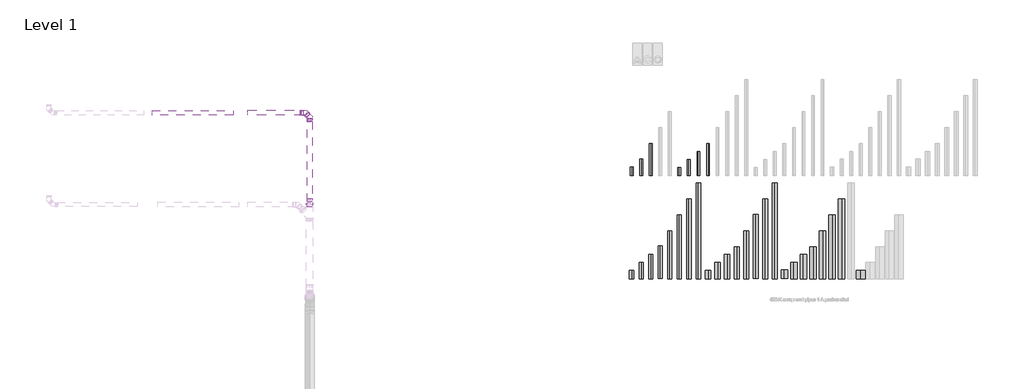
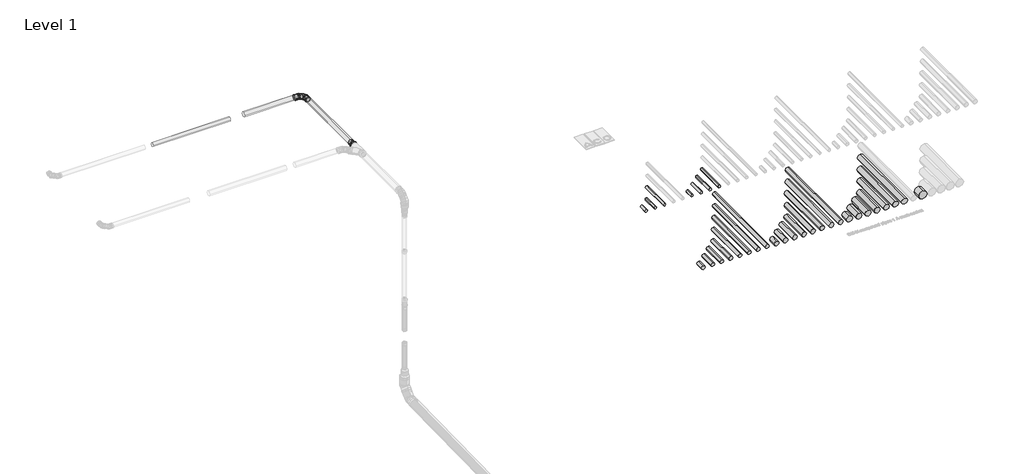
# One storey, part 2 of 4: 34 pipe segments, 12 pipe fittings.
"""IFC4 building model written with IfcOpenShell, lengths in millimetres."""

from ifc_helpers import new_model, si_unit, point, frame, frame_2d, origin, place, context, project, spatial, circle_curve, trimmed, segment, composite_curve, outline, extrude, transform, mapped, element, save
from components import double_bend_d3bed9e9, std_nested_fe88de9d, std_nested_46ab66b3, std_nested_90d89c33, std_nested_b22cb0b6, std_nested_0b754541, std_nested_8d21ddc5, std_nested_95e7eb0f

model = new_model("IFC4")

# Units and contexts
model_context = context("Model", 3, world=origin())
ifc_project = project(units=[si_unit("LENGTHUNIT", "METRE", prefix="MILLI")], contexts=[model_context])

# Site, building, storey
site = spatial("IfcSite", under=ifc_project)
building = spatial("IfcBuilding", under=site)
storey = spatial("IfcBuildingStorey", under=building, Name="Level 1", Elevation=0.0)

# Pipe fittings
placement = place(None, origin())
double_bend_shape = double_bend_d3bed9e9(model_context)
element("IfcPipeFitting", 1, ObjectType="PIF_ST_UN_GM-X compound pipe multi-bend_ACO : double bend", at=placement, inside=storey, context=model_context, shape_type="MappedRepresentation", body=[
    mapped(double_bend_shape, transform((-9614.684142, 5223.6615366, 6367.4522786), x_axis=(0.0, 1.0, 0.0), y_axis=(-1.0, 0.0, 0.0), z_axis=(0.0, 0.0, 1.0))),
])
std_nested_shape = std_nested_fe88de9d(model_context)
element("IfcPipeFitting", 2, ObjectType="ZZZ_do not use_PIF_ST_WPB_GM-X compound pipe bend_ACO : std (nested)", at=placement, inside=storey, context=model_context, shape_type="MappedRepresentation", body=[
    mapped(std_nested_shape, transform((-9752.5699643, 5223.6615366, 6367.4522786), x_axis=(-0.7071067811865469, 0.7071067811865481, 0.0), y_axis=(-0.7071067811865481, -0.7071067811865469, 0.0), z_axis=(0.0, 0.0, 1.0))),
])
std_nested_2_shape = std_nested_46ab66b3(model_context)
element("IfcPipeFitting", 3, ObjectType="ZZZ_do not use_PIF_GEN_WPB_GM-X (compound) pipe seal_ACO : std (nested)", at=placement, inside=storey, context=model_context, shape_type="MappedRepresentation", body=[
    mapped(std_nested_2_shape, transform((-9887.5699643, 5223.6615366, 6367.4522786), x_axis=(0.0, 1.0000000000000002, 0.0), y_axis=(0.0, 0.0, -1.0000000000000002), z_axis=(-1.0000000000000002, 0.0, 0.0))),
])
element("IfcPipeFitting", 4, ObjectType="ZZZ_do not use_PIF_GEN_WPB_GM-X (compound) pipe seal_ACO : std (nested)", at=placement, inside=storey, context=model_context, shape_type="MappedRepresentation", body=[
    mapped(std_nested_2_shape, transform((-9710.1435574, 5181.2351298, 6367.4522786), x_axis=(0.7071067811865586, 0.7071067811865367, 0.0), y_axis=(0.0, 0.0, -1.0000000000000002), z_axis=(-0.7071067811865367, 0.7071067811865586, 0.0))),
])
element("IfcPipeFitting", 5, ObjectType="ZZZ_do not use_PIF_GEN_WPB_GM-X (compound) pipe seal_ACO : std (nested)", at=placement, inside=storey, context=model_context, shape_type="MappedRepresentation", body=[
    mapped(std_nested_2_shape, transform((-9614.684142, 2502.2702632, 6367.4522786), x_axis=(1.0, 0.0, 0.0), y_axis=(0.0, 0.0, -1.0), z_axis=(0.0, 1.0, 0.0))),
])
std_nested_3_shape = std_nested_90d89c33(model_context)
element("IfcPipeFitting", 6, ObjectType="ZZZ_do not use_PIF_ST_WPB_GM-X compound pipe clamp_ACO : std (nested)", at=placement, inside=storey, context=model_context, shape_type="MappedRepresentation", body=[
    mapped(std_nested_3_shape, transform((-9887.5699643, 5223.6615366, 6367.4522786), x_axis=(0.0, 1.0000000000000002, 0.0), y_axis=(0.0, 0.0, -1.0000000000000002), z_axis=(-1.0000000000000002, 0.0, 0.0))),
])
element("IfcPipeFitting", 7, ObjectType="ZZZ_do not use_PIF_ST_WPB_GM-X compound pipe clamp_ACO : std (nested)", at=placement, inside=storey, context=model_context, shape_type="MappedRepresentation", body=[
    mapped(std_nested_3_shape, transform((-9710.1435574, 5181.2351298, 6367.4522786), x_axis=(0.7071067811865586, 0.7071067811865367, 0.0), y_axis=(0.0, 0.0, -1.0000000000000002), z_axis=(-0.7071067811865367, 0.7071067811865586, 0.0))),
])
element("IfcPipeFitting", 8, ObjectType="ZZZ_do not use_PIF_ST_WPB_GM-X compound pipe clamp_ACO : std (nested)", at=placement, inside=storey, context=model_context, shape_type="MappedRepresentation", body=[
    mapped(std_nested_3_shape, transform((-9614.684142, 2502.2702632, 6367.4522786), x_axis=(1.0, 0.0, 0.0), y_axis=(0.0, 0.0, -1.0), z_axis=(0.0, 1.0, 0.0))),
])
std_nested_4_shape = std_nested_b22cb0b6(model_context)
element("IfcPipeFitting", 9, ObjectType="ZZZ_do not use_PIF_GEN_WPB_GM-X (compound) pipe seal_ACO : std (nested)", at=placement, inside=storey, context=model_context, shape_type="MappedRepresentation", body=[
    mapped(std_nested_4_shape, transform((-9614.684142, 4950.7757143, 6367.4522786), x_axis=(-1.0, 0.0, 0.0), y_axis=(0.0, 0.0, -1.0), z_axis=(0.0, -1.0, 0.0))),
])
std_nested_5_shape = std_nested_0b754541(model_context)
element("IfcPipeFitting", 10, ObjectType="ZZZ_do not use_PIF_ST_WPB_GM-X compound pipe bend_ACO : std (nested)", at=placement, inside=storey, context=model_context, shape_type="MappedRepresentation", body=[
    mapped(std_nested_5_shape, transform((-9614.684142, 5085.7757143, 6367.4522786), x_axis=(0.0, 1.0, 0.0), y_axis=(-1.0, 0.0, 0.0), z_axis=(0.0, 0.0, 1.0))),
])
std_nested_6_shape = std_nested_8d21ddc5(model_context)
element("IfcPipeFitting", 11, ObjectType="ZZZ_do not use_PIF_ST_WPB_GM-X compound pipe clamp_ACO : std (nested)", at=placement, inside=storey, context=model_context, shape_type="MappedRepresentation", body=[
    mapped(std_nested_6_shape, transform((-9614.684142, 4950.7757143, 6367.4522786), x_axis=(-1.0, 0.0, 0.0), y_axis=(0.0, 0.0, -1.0), z_axis=(0.0, -1.0, 0.0))),
])
std_nested_7_shape = std_nested_95e7eb0f(model_context)
element("IfcPipeFitting", 12, ObjectType="ZZZ_do not use_PIF_ST_WPB_GM-X compound pipe reducer_ACO : std (nested)", at=placement, inside=storey, context=model_context, shape_type="MappedRepresentation", body=[
    mapped(std_nested_7_shape, transform((-9614.684142, 2262.2702632, 6367.4522786), x_axis=(0.0, -1.0, 0.0), y_axis=(1.0, 0.0, 0.0), z_axis=(0.0, 0.0, 1.0))),
])

# Pipe segments
element("IfcPipeSegment", 13, ObjectType="GM-X compound pipe", at=placement, inside=storey, context=model_context, shape_type="SweptSolid", body=[
    extrude(outline(composite_curve([segment(trimmed(circle_curve(frame_2d((0.0, 500.0)), 44.5), [point((0.0, 544.5))], [point((44.5, 500.0))], False, "CARTESIAN"), True, "CONTINUOUS"), segment(trimmed(circle_curve(frame_2d((0.0, 500.0)), 44.5), [point((44.5, 500.0))], [point((0.0, 455.5))], False, "CARTESIAN"), True, "CONTINUOUS"), segment(trimmed(circle_curve(frame_2d((0.0, 500.0)), 44.5), [point((0.0, 455.5))], [point((-44.5, 500.0))], False, "CARTESIAN"), True, "CONTINUOUS"), segment(trimmed(circle_curve(frame_2d((0.0, 500.0)), 44.5), [point((-44.5, 500.0))], [point((0.0, 544.5))], False, "CARTESIAN"), True, "CONTINUOUS")], self_intersect=False)), frame((0.0, 3250.0, 0.0), z_axis=(0.0, 1.0, 0.0), x_axis=(0.0, 0.0, 1.0)), (0.0, 0.0, 1.0), 260.0),
])
element("IfcPipeSegment", 14, ObjectType="GM-X compound pipe", at=placement, inside=storey, context=model_context, shape_type="SweptSolid", body=[
    extrude(outline(composite_curve([segment(trimmed(circle_curve(frame_2d((0.0, 800.0)), 44.5), [point((0.0, 844.5))], [point((44.5, 800.0))], False, "CARTESIAN"), True, "CONTINUOUS"), segment(trimmed(circle_curve(frame_2d((0.0, 800.0)), 44.5), [point((44.5, 800.0))], [point((0.0, 755.5))], False, "CARTESIAN"), True, "CONTINUOUS"), segment(trimmed(circle_curve(frame_2d((0.0, 800.0)), 44.5), [point((0.0, 755.5))], [point((-44.5, 800.0))], False, "CARTESIAN"), True, "CONTINUOUS"), segment(trimmed(circle_curve(frame_2d((0.0, 800.0)), 44.5), [point((-44.5, 800.0))], [point((0.0, 844.5))], False, "CARTESIAN"), True, "CONTINUOUS")], self_intersect=False)), frame((0.0, 3250.0, 0.0), z_axis=(0.0, 1.0, 0.0), x_axis=(0.0, 0.0, 1.0)), (0.0, 0.0, 1.0), 510.0),
])
element("IfcPipeSegment", 15, ObjectType="GM-X compound pipe", at=placement, inside=storey, context=model_context, shape_type="SweptSolid", body=[
    extrude(outline(composite_curve([segment(trimmed(circle_curve(frame_2d((0.0, 1100.0)), 44.5), [point((0.0, 1144.5))], [point((44.5, 1100.0))], False, "CARTESIAN"), True, "CONTINUOUS"), segment(trimmed(circle_curve(frame_2d((0.0, 1100.0)), 44.5), [point((44.5, 1100.0))], [point((0.0, 1055.5))], False, "CARTESIAN"), True, "CONTINUOUS"), segment(trimmed(circle_curve(frame_2d((0.0, 1100.0)), 44.5), [point((0.0, 1055.5))], [point((-44.5, 1100.0))], False, "CARTESIAN"), True, "CONTINUOUS"), segment(trimmed(circle_curve(frame_2d((0.0, 1100.0)), 44.5), [point((-44.5, 1100.0))], [point((0.0, 1144.5))], False, "CARTESIAN"), True, "CONTINUOUS")], self_intersect=False)), frame((0.0, 3250.0, 0.0), z_axis=(0.0, 1.0, 0.0), x_axis=(0.0, 0.0, 1.0)), (0.0, 0.0, 1.0), 1010.0),
])
element("IfcPipeSegment", 16, ObjectType="GM-X compound pipe", at=placement, inside=storey, context=model_context, shape_type="SweptSolid", body=[
    extrude(outline(composite_curve([segment(trimmed(circle_curve(frame_2d((0.0, 2000.0)), 44.5), [point((0.0, 2044.5))], [point((44.5, 2000.0))], False, "CARTESIAN"), True, "CONTINUOUS"), segment(trimmed(circle_curve(frame_2d((0.0, 2000.0)), 44.5), [point((44.5, 2000.0))], [point((0.0, 1955.5))], False, "CARTESIAN"), True, "CONTINUOUS"), segment(trimmed(circle_curve(frame_2d((0.0, 2000.0)), 44.5), [point((0.0, 1955.5))], [point((-44.5, 2000.0))], False, "CARTESIAN"), True, "CONTINUOUS"), segment(trimmed(circle_curve(frame_2d((0.0, 2000.0)), 44.5), [point((-44.5, 2000.0))], [point((0.0, 2044.5))], False, "CARTESIAN"), True, "CONTINUOUS")], self_intersect=False)), frame((0.0, 3250.0, 0.0), z_axis=(0.0, 1.0, 0.0), x_axis=(0.0, 0.0, 1.0)), (0.0, 0.0, 1.0), 258.0),
])
element("IfcPipeSegment", 17, ObjectType="GM-X compound pipe", at=placement, inside=storey, context=model_context, shape_type="SweptSolid", body=[
    extrude(outline(composite_curve([segment(trimmed(circle_curve(frame_2d((0.0, 2300.0)), 44.5), [point((0.0, 2344.5))], [point((44.5, 2300.0))], False, "CARTESIAN"), True, "CONTINUOUS"), segment(trimmed(circle_curve(frame_2d((0.0, 2300.0)), 44.5), [point((44.5, 2300.0))], [point((0.0, 2255.5))], False, "CARTESIAN"), True, "CONTINUOUS"), segment(trimmed(circle_curve(frame_2d((0.0, 2300.0)), 44.5), [point((0.0, 2255.5))], [point((-44.5, 2300.0))], False, "CARTESIAN"), True, "CONTINUOUS"), segment(trimmed(circle_curve(frame_2d((0.0, 2300.0)), 44.5), [point((-44.5, 2300.0))], [point((0.0, 2344.5))], False, "CARTESIAN"), True, "CONTINUOUS")], self_intersect=False)), frame((0.0, 3250.0, 0.0), z_axis=(0.0, 1.0, 0.0), x_axis=(0.0, 0.0, 1.0)), (0.0, 0.0, 1.0), 508.0),
])
element("IfcPipeSegment", 18, ObjectType="GM-X compound pipe", at=placement, inside=storey, context=model_context, shape_type="SweptSolid", body=[
    extrude(outline(composite_curve([segment(trimmed(circle_curve(frame_2d((0.0, 2600.0)), 44.5), [point((0.0, 2644.5))], [point((44.5, 2600.0))], False, "CARTESIAN"), True, "CONTINUOUS"), segment(trimmed(circle_curve(frame_2d((0.0, 2600.0)), 44.5), [point((44.5, 2600.0))], [point((0.0, 2555.5))], False, "CARTESIAN"), True, "CONTINUOUS"), segment(trimmed(circle_curve(frame_2d((0.0, 2600.0)), 44.5), [point((0.0, 2555.5))], [point((-44.5, 2600.0))], False, "CARTESIAN"), True, "CONTINUOUS"), segment(trimmed(circle_curve(frame_2d((0.0, 2600.0)), 44.5), [point((-44.5, 2600.0))], [point((0.0, 2644.5))], False, "CARTESIAN"), True, "CONTINUOUS")], self_intersect=False)), frame((0.0, 3250.0, 0.0), z_axis=(0.0, 1.0, 0.0), x_axis=(0.0, 0.0, 1.0)), (0.0, 0.0, 1.0), 758.0),
])
element("IfcPipeSegment", 19, ObjectType="GM-X compound pipe", at=placement, inside=storey, context=model_context, shape_type="SweptSolid", body=[
    extrude(outline(composite_curve([segment(trimmed(circle_curve(frame_2d((0.0, 2900.0)), 44.5), [point((0.0, 2944.5))], [point((44.5, 2900.0))], False, "CARTESIAN"), True, "CONTINUOUS"), segment(trimmed(circle_curve(frame_2d((0.0, 2900.0)), 44.5), [point((44.5, 2900.0))], [point((0.0, 2855.5))], False, "CARTESIAN"), True, "CONTINUOUS"), segment(trimmed(circle_curve(frame_2d((0.0, 2900.0)), 44.5), [point((0.0, 2855.5))], [point((-44.5, 2900.0))], False, "CARTESIAN"), True, "CONTINUOUS"), segment(trimmed(circle_curve(frame_2d((0.0, 2900.0)), 44.5), [point((-44.5, 2900.0))], [point((0.0, 2944.5))], False, "CARTESIAN"), True, "CONTINUOUS")], self_intersect=False)), frame((0.0, 3250.0, 0.0), z_axis=(0.0, 1.0, 0.0), x_axis=(0.0, 0.0, 1.0)), (0.0, 0.0, 1.0), 1008.0),
])
element("IfcPipeSegment", 20, ObjectType="GM-X compound pipe", at=placement, inside=storey, context=model_context, shape_type="SweptSolid", body=[
    extrude(outline(composite_curve([segment(trimmed(circle_curve(frame_2d((0.0, 500.0)), 67.0), [point((0.0, 567.0))], [point((67.0, 500.0))], False, "CARTESIAN"), True, "CONTINUOUS"), segment(trimmed(circle_curve(frame_2d((0.0, 500.0)), 67.0), [point((67.0, 500.0))], [point((0.0, 433.0))], False, "CARTESIAN"), True, "CONTINUOUS"), segment(trimmed(circle_curve(frame_2d((0.0, 500.0)), 67.0), [point((0.0, 433.0))], [point((-67.0, 500.0))], False, "CARTESIAN"), True, "CONTINUOUS"), segment(trimmed(circle_curve(frame_2d((0.0, 500.0)), 67.0), [point((-67.0, 500.0))], [point((0.0, 567.0))], False, "CARTESIAN"), True, "CONTINUOUS")], self_intersect=False)), frame((0.0, 0.0, 0.0), z_axis=(0.0, 1.0, 0.0), x_axis=(0.0, 0.0, 1.0)), (0.0, 0.0, 1.0), 260.0),
])
element("IfcPipeSegment", 21, ObjectType="GM-X compound pipe", at=placement, inside=storey, context=model_context, shape_type="SweptSolid", body=[
    extrude(outline(composite_curve([segment(trimmed(circle_curve(frame_2d((0.0, 800.0)), 67.0), [point((0.0, 867.0))], [point((67.0, 800.0))], False, "CARTESIAN"), True, "CONTINUOUS"), segment(trimmed(circle_curve(frame_2d((0.0, 800.0)), 67.0), [point((67.0, 800.0))], [point((0.0, 733.0))], False, "CARTESIAN"), True, "CONTINUOUS"), segment(trimmed(circle_curve(frame_2d((0.0, 800.0)), 67.0), [point((0.0, 733.0))], [point((-67.0, 800.0))], False, "CARTESIAN"), True, "CONTINUOUS"), segment(trimmed(circle_curve(frame_2d((0.0, 800.0)), 67.0), [point((-67.0, 800.0))], [point((0.0, 867.0))], False, "CARTESIAN"), True, "CONTINUOUS")], self_intersect=False)), frame((0.0, 0.0, 0.0), z_axis=(0.0, 1.0, 0.0), x_axis=(0.0, 0.0, 1.0)), (0.0, 0.0, 1.0), 510.0),
])
element("IfcPipeSegment", 22, ObjectType="GM-X compound pipe", at=placement, inside=storey, context=model_context, shape_type="SweptSolid", body=[
    extrude(outline(composite_curve([segment(trimmed(circle_curve(frame_2d((0.0, 1100.0)), 67.0), [point((0.0, 1167.0))], [point((67.0, 1100.0))], False, "CARTESIAN"), True, "CONTINUOUS"), segment(trimmed(circle_curve(frame_2d((0.0, 1100.0)), 67.0), [point((67.0, 1100.0))], [point((0.0, 1033.0))], False, "CARTESIAN"), True, "CONTINUOUS"), segment(trimmed(circle_curve(frame_2d((0.0, 1100.0)), 67.0), [point((0.0, 1033.0))], [point((-67.0, 1100.0))], False, "CARTESIAN"), True, "CONTINUOUS"), segment(trimmed(circle_curve(frame_2d((0.0, 1100.0)), 67.0), [point((-67.0, 1100.0))], [point((0.0, 1167.0))], False, "CARTESIAN"), True, "CONTINUOUS")], self_intersect=False)), frame((0.0, 0.0, 0.0), z_axis=(0.0, 1.0, 0.0), x_axis=(0.0, 0.0, 1.0)), (0.0, 0.0, 1.0), 760.0),
])
element("IfcPipeSegment", 23, ObjectType="GM-X compound pipe", at=placement, inside=storey, context=model_context, shape_type="SweptSolid", body=[
    extrude(outline(composite_curve([segment(trimmed(circle_curve(frame_2d((0.0, 1400.0)), 67.0), [point((0.0, 1467.0))], [point((67.0, 1400.0))], False, "CARTESIAN"), True, "CONTINUOUS"), segment(trimmed(circle_curve(frame_2d((0.0, 1400.0)), 67.0), [point((67.0, 1400.0))], [point((0.0, 1333.0))], False, "CARTESIAN"), True, "CONTINUOUS"), segment(trimmed(circle_curve(frame_2d((0.0, 1400.0)), 67.0), [point((0.0, 1333.0))], [point((-67.0, 1400.0))], False, "CARTESIAN"), True, "CONTINUOUS"), segment(trimmed(circle_curve(frame_2d((0.0, 1400.0)), 67.0), [point((-67.0, 1400.0))], [point((0.0, 1467.0))], False, "CARTESIAN"), True, "CONTINUOUS")], self_intersect=False)), frame((0.0, 16.3427665, 0.0), z_axis=(0.0, 1.0, 0.0), x_axis=(0.0, 0.0, 1.0)), (0.0, 0.0, 1.0), 1010.0),
])
element("IfcPipeSegment", 24, ObjectType="GM-X compound pipe", at=placement, inside=storey, context=model_context, shape_type="SweptSolid", body=[
    extrude(outline(composite_curve([segment(trimmed(circle_curve(frame_2d((0.0, 1700.0)), 67.0), [point((0.0, 1767.0))], [point((67.0, 1700.0))], False, "CARTESIAN"), True, "CONTINUOUS"), segment(trimmed(circle_curve(frame_2d((0.0, 1700.0)), 67.0), [point((67.0, 1700.0))], [point((0.0, 1633.0))], False, "CARTESIAN"), True, "CONTINUOUS"), segment(trimmed(circle_curve(frame_2d((0.0, 1700.0)), 67.0), [point((0.0, 1633.0))], [point((-67.0, 1700.0))], False, "CARTESIAN"), True, "CONTINUOUS"), segment(trimmed(circle_curve(frame_2d((0.0, 1700.0)), 67.0), [point((-67.0, 1700.0))], [point((0.0, 1767.0))], False, "CARTESIAN"), True, "CONTINUOUS")], self_intersect=False)), frame((0.0, 0.0, 0.0), z_axis=(0.0, 1.0, 0.0), x_axis=(0.0, 0.0, 1.0)), (0.0, 0.0, 1.0), 1510.0),
])
element("IfcPipeSegment", 25, ObjectType="GM-X compound pipe", at=placement, inside=storey, context=model_context, shape_type="SweptSolid", body=[
    extrude(outline(composite_curve([segment(trimmed(circle_curve(frame_2d((0.0, 2000.0)), 67.0), [point((0.0, 2067.0))], [point((67.0, 2000.0))], False, "CARTESIAN"), True, "CONTINUOUS"), segment(trimmed(circle_curve(frame_2d((0.0, 2000.0)), 67.0), [point((67.0, 2000.0))], [point((0.0, 1933.0))], False, "CARTESIAN"), True, "CONTINUOUS"), segment(trimmed(circle_curve(frame_2d((0.0, 2000.0)), 67.0), [point((0.0, 1933.0))], [point((-67.0, 2000.0))], False, "CARTESIAN"), True, "CONTINUOUS"), segment(trimmed(circle_curve(frame_2d((0.0, 2000.0)), 67.0), [point((-67.0, 2000.0))], [point((0.0, 2067.0))], False, "CARTESIAN"), True, "CONTINUOUS")], self_intersect=False)), frame((0.0, 0.0, 0.0), z_axis=(0.0, 1.0, 0.0), x_axis=(0.0, 0.0, 1.0)), (0.0, 0.0, 1.0), 2010.0),
])
element("IfcPipeSegment", 26, ObjectType="GM-X compound pipe", at=placement, inside=storey, context=model_context, shape_type="SweptSolid", body=[
    extrude(outline(composite_curve([segment(trimmed(circle_curve(frame_2d((0.0, 2300.0)), 67.0), [point((0.0, 2367.0))], [point((67.0, 2300.0))], False, "CARTESIAN"), True, "CONTINUOUS"), segment(trimmed(circle_curve(frame_2d((0.0, 2300.0)), 67.0), [point((67.0, 2300.0))], [point((0.0, 2233.0))], False, "CARTESIAN"), True, "CONTINUOUS"), segment(trimmed(circle_curve(frame_2d((0.0, 2300.0)), 67.0), [point((0.0, 2233.0))], [point((-67.0, 2300.0))], False, "CARTESIAN"), True, "CONTINUOUS"), segment(trimmed(circle_curve(frame_2d((0.0, 2300.0)), 67.0), [point((-67.0, 2300.0))], [point((0.0, 2367.0))], False, "CARTESIAN"), True, "CONTINUOUS")], self_intersect=False)), frame((0.0, 0.0, 0.0), z_axis=(0.0, 1.0, 0.0), x_axis=(0.0, 0.0, 1.0)), (0.0, 0.0, 1.0), 2510.0),
])
element("IfcPipeSegment", 27, ObjectType="GM-X compound pipe", at=placement, inside=storey, context=model_context, shape_type="SweptSolid", body=[
    extrude(outline(composite_curve([segment(trimmed(circle_curve(frame_2d((0.0, 2600.0)), 67.0), [point((0.0, 2667.0))], [point((67.0, 2600.0))], False, "CARTESIAN"), True, "CONTINUOUS"), segment(trimmed(circle_curve(frame_2d((0.0, 2600.0)), 67.0), [point((67.0, 2600.0))], [point((0.0, 2533.0))], False, "CARTESIAN"), True, "CONTINUOUS"), segment(trimmed(circle_curve(frame_2d((0.0, 2600.0)), 67.0), [point((0.0, 2533.0))], [point((-67.0, 2600.0))], False, "CARTESIAN"), True, "CONTINUOUS"), segment(trimmed(circle_curve(frame_2d((0.0, 2600.0)), 67.0), [point((-67.0, 2600.0))], [point((0.0, 2667.0))], False, "CARTESIAN"), True, "CONTINUOUS")], self_intersect=False)), frame((0.0, 0.0, 0.0), z_axis=(0.0, 1.0, 0.0), x_axis=(0.0, 0.0, 1.0)), (0.0, 0.0, 1.0), 3010.0),
])
element("IfcPipeSegment", 28, ObjectType="GM-X compound pipe", at=placement, inside=storey, context=model_context, shape_type="SweptSolid", body=[
    extrude(outline(composite_curve([segment(trimmed(circle_curve(frame_2d((0.0, 2900.0)), 82.0), [point((0.0, 2982.0))], [point((82.0, 2900.0))], False, "CARTESIAN"), True, "CONTINUOUS"), segment(trimmed(circle_curve(frame_2d((0.0, 2900.0)), 82.0), [point((82.0, 2900.0))], [point((0.0, 2818.0))], False, "CARTESIAN"), True, "CONTINUOUS"), segment(trimmed(circle_curve(frame_2d((0.0, 2900.0)), 82.0), [point((0.0, 2818.0))], [point((-82.0, 2900.0))], False, "CARTESIAN"), True, "CONTINUOUS"), segment(trimmed(circle_curve(frame_2d((0.0, 2900.0)), 82.0), [point((-82.0, 2900.0))], [point((0.0, 2982.0))], False, "CARTESIAN"), True, "CONTINUOUS")], self_intersect=False)), frame((0.0, 0.0, 0.0), z_axis=(0.0, 1.0, 0.0), x_axis=(0.0, 0.0, 1.0)), (0.0, 0.0, 1.0), 260.0),
])
element("IfcPipeSegment", 29, ObjectType="GM-X compound pipe", at=placement, inside=storey, context=model_context, shape_type="SweptSolid", body=[
    extrude(outline(composite_curve([segment(trimmed(circle_curve(frame_2d((0.0, 3200.0)), 82.0), [point((0.0, 3282.0))], [point((82.0, 3200.0))], False, "CARTESIAN"), True, "CONTINUOUS"), segment(trimmed(circle_curve(frame_2d((0.0, 3200.0)), 82.0), [point((82.0, 3200.0))], [point((0.0, 3118.0))], False, "CARTESIAN"), True, "CONTINUOUS"), segment(trimmed(circle_curve(frame_2d((0.0, 3200.0)), 82.0), [point((0.0, 3118.0))], [point((-82.0, 3200.0))], False, "CARTESIAN"), True, "CONTINUOUS"), segment(trimmed(circle_curve(frame_2d((0.0, 3200.0)), 82.0), [point((-82.0, 3200.0))], [point((0.0, 3282.0))], False, "CARTESIAN"), True, "CONTINUOUS")], self_intersect=False)), frame((0.0, 0.0, 0.0), z_axis=(0.0, 1.0, 0.0), x_axis=(0.0, 0.0, 1.0)), (0.0, 0.0, 1.0), 510.0),
])
element("IfcPipeSegment", 30, ObjectType="GM-X compound pipe", at=placement, inside=storey, context=model_context, shape_type="SweptSolid", body=[
    extrude(outline(composite_curve([segment(trimmed(circle_curve(frame_2d((0.0, 3500.0)), 82.0), [point((0.0, 3582.0))], [point((82.0, 3500.0))], False, "CARTESIAN"), True, "CONTINUOUS"), segment(trimmed(circle_curve(frame_2d((0.0, 3500.0)), 82.0), [point((82.0, 3500.0))], [point((0.0, 3418.0))], False, "CARTESIAN"), True, "CONTINUOUS"), segment(trimmed(circle_curve(frame_2d((0.0, 3500.0)), 82.0), [point((0.0, 3418.0))], [point((-82.0, 3500.0))], False, "CARTESIAN"), True, "CONTINUOUS"), segment(trimmed(circle_curve(frame_2d((0.0, 3500.0)), 82.0), [point((-82.0, 3500.0))], [point((0.0, 3582.0))], False, "CARTESIAN"), True, "CONTINUOUS")], self_intersect=False)), frame((0.0, 0.0, 0.0), z_axis=(0.0, 1.0, 0.0), x_axis=(0.0, 0.0, 1.0)), (0.0, 0.0, 1.0), 760.0),
])
element("IfcPipeSegment", 31, ObjectType="GM-X compound pipe", at=placement, inside=storey, context=model_context, shape_type="SweptSolid", body=[
    extrude(outline(composite_curve([segment(trimmed(circle_curve(frame_2d((0.0, 3800.0)), 82.0), [point((0.0, 3882.0))], [point((82.0, 3800.0))], False, "CARTESIAN"), True, "CONTINUOUS"), segment(trimmed(circle_curve(frame_2d((0.0, 3800.0)), 82.0), [point((82.0, 3800.0))], [point((0.0, 3718.0))], False, "CARTESIAN"), True, "CONTINUOUS"), segment(trimmed(circle_curve(frame_2d((0.0, 3800.0)), 82.0), [point((0.0, 3718.0))], [point((-82.0, 3800.0))], False, "CARTESIAN"), True, "CONTINUOUS"), segment(trimmed(circle_curve(frame_2d((0.0, 3800.0)), 82.0), [point((-82.0, 3800.0))], [point((0.0, 3882.0))], False, "CARTESIAN"), True, "CONTINUOUS")], self_intersect=False)), frame((0.0, 0.0, 0.0), z_axis=(0.0, 1.0, 0.0), x_axis=(0.0, 0.0, 1.0)), (0.0, 0.0, 1.0), 1010.0),
])
element("IfcPipeSegment", 32, ObjectType="GM-X compound pipe", at=placement, inside=storey, context=model_context, shape_type="SweptSolid", body=[
    extrude(outline(composite_curve([segment(trimmed(circle_curve(frame_2d((0.0, 4100.0)), 82.0), [point((0.0, 4182.0))], [point((82.0, 4100.0))], False, "CARTESIAN"), True, "CONTINUOUS"), segment(trimmed(circle_curve(frame_2d((0.0, 4100.0)), 82.0), [point((82.0, 4100.0))], [point((0.0, 4018.0))], False, "CARTESIAN"), True, "CONTINUOUS"), segment(trimmed(circle_curve(frame_2d((0.0, 4100.0)), 82.0), [point((0.0, 4018.0))], [point((-82.0, 4100.0))], False, "CARTESIAN"), True, "CONTINUOUS"), segment(trimmed(circle_curve(frame_2d((0.0, 4100.0)), 82.0), [point((-82.0, 4100.0))], [point((0.0, 4182.0))], False, "CARTESIAN"), True, "CONTINUOUS")], self_intersect=False)), frame((0.0, 0.0, 0.0), z_axis=(0.0, 1.0, 0.0), x_axis=(0.0, 0.0, 1.0)), (0.0, 0.0, 1.0), 1510.0),
])
element("IfcPipeSegment", 33, ObjectType="GM-X compound pipe", at=placement, inside=storey, context=model_context, shape_type="SweptSolid", body=[
    extrude(outline(composite_curve([segment(trimmed(circle_curve(frame_2d((0.0, 4400.0)), 82.0), [point((0.0, 4482.0))], [point((82.0, 4400.0))], False, "CARTESIAN"), True, "CONTINUOUS"), segment(trimmed(circle_curve(frame_2d((0.0, 4400.0)), 82.0), [point((82.0, 4400.0))], [point((0.0, 4318.0))], False, "CARTESIAN"), True, "CONTINUOUS"), segment(trimmed(circle_curve(frame_2d((0.0, 4400.0)), 82.0), [point((0.0, 4318.0))], [point((-82.0, 4400.0))], False, "CARTESIAN"), True, "CONTINUOUS"), segment(trimmed(circle_curve(frame_2d((0.0, 4400.0)), 82.0), [point((-82.0, 4400.0))], [point((0.0, 4482.0))], False, "CARTESIAN"), True, "CONTINUOUS")], self_intersect=False)), frame((0.0, 16.3427665, 0.0), z_axis=(0.0, 1.0, 0.0), x_axis=(0.0, 0.0, 1.0)), (0.0, 0.0, 1.0), 2010.0),
])
element("IfcPipeSegment", 34, ObjectType="GM-X compound pipe", at=placement, inside=storey, context=model_context, shape_type="SweptSolid", body=[
    extrude(outline(composite_curve([segment(trimmed(circle_curve(frame_2d((0.0, 4700.0)), 82.0), [point((0.0, 4782.0))], [point((82.0, 4700.0))], False, "CARTESIAN"), True, "CONTINUOUS"), segment(trimmed(circle_curve(frame_2d((0.0, 4700.0)), 82.0), [point((82.0, 4700.0))], [point((0.0, 4618.0))], False, "CARTESIAN"), True, "CONTINUOUS"), segment(trimmed(circle_curve(frame_2d((0.0, 4700.0)), 82.0), [point((0.0, 4618.0))], [point((-82.0, 4700.0))], False, "CARTESIAN"), True, "CONTINUOUS"), segment(trimmed(circle_curve(frame_2d((0.0, 4700.0)), 82.0), [point((-82.0, 4700.0))], [point((0.0, 4782.0))], False, "CARTESIAN"), True, "CONTINUOUS")], self_intersect=False)), frame((0.0, 0.0, 0.0), z_axis=(0.0, 1.0, 0.0), x_axis=(0.0, 0.0, 1.0)), (0.0, 0.0, 1.0), 2510.0),
])
element("IfcPipeSegment", 35, ObjectType="GM-X compound pipe", at=placement, inside=storey, context=model_context, shape_type="SweptSolid", body=[
    extrude(outline(composite_curve([segment(trimmed(circle_curve(frame_2d((0.0, 5000.0)), 82.0), [point((0.0, 5082.0))], [point((82.0, 5000.0))], False, "CARTESIAN"), True, "CONTINUOUS"), segment(trimmed(circle_curve(frame_2d((0.0, 5000.0)), 82.0), [point((82.0, 5000.0))], [point((0.0, 4918.0))], False, "CARTESIAN"), True, "CONTINUOUS"), segment(trimmed(circle_curve(frame_2d((0.0, 5000.0)), 82.0), [point((0.0, 4918.0))], [point((-82.0, 5000.0))], False, "CARTESIAN"), True, "CONTINUOUS"), segment(trimmed(circle_curve(frame_2d((0.0, 5000.0)), 82.0), [point((-82.0, 5000.0))], [point((0.0, 5082.0))], False, "CARTESIAN"), True, "CONTINUOUS")], self_intersect=False)), frame((0.0, 0.0, 0.0), z_axis=(0.0, 1.0, 0.0), x_axis=(0.0, 0.0, 1.0)), (0.0, 0.0, 1.0), 3010.0),
])
element("IfcPipeSegment", 36, ObjectType="GM-X compound pipe", at=placement, inside=storey, context=model_context, shape_type="SweptSolid", body=[
    extrude(outline(composite_curve([segment(trimmed(circle_curve(frame_2d((0.0, 5300.0)), 102.0), [point((0.0, 5402.0))], [point((102.0, 5300.0))], False, "CARTESIAN"), True, "CONTINUOUS"), segment(trimmed(circle_curve(frame_2d((0.0, 5300.0)), 102.0), [point((102.0, 5300.0))], [point((0.0, 5198.0))], False, "CARTESIAN"), True, "CONTINUOUS"), segment(trimmed(circle_curve(frame_2d((0.0, 5300.0)), 102.0), [point((0.0, 5198.0))], [point((-102.0, 5300.0))], False, "CARTESIAN"), True, "CONTINUOUS"), segment(trimmed(circle_curve(frame_2d((0.0, 5300.0)), 102.0), [point((-102.0, 5300.0))], [point((0.0, 5402.0))], False, "CARTESIAN"), True, "CONTINUOUS")], self_intersect=False)), frame((0.0, 16.3427665, 0.0), z_axis=(0.0, 1.0, 0.0), x_axis=(0.0, 0.0, 1.0)), (0.0, 0.0, 1.0), 260.0),
])
element("IfcPipeSegment", 37, ObjectType="GM-X compound pipe", at=placement, inside=storey, context=model_context, shape_type="SweptSolid", body=[
    extrude(outline(composite_curve([segment(trimmed(circle_curve(frame_2d((0.0, 5600.0)), 102.0), [point((0.0, 5702.0))], [point((102.0, 5600.0))], False, "CARTESIAN"), True, "CONTINUOUS"), segment(trimmed(circle_curve(frame_2d((0.0, 5600.0)), 102.0), [point((102.0, 5600.0))], [point((0.0, 5498.0))], False, "CARTESIAN"), True, "CONTINUOUS"), segment(trimmed(circle_curve(frame_2d((0.0, 5600.0)), 102.0), [point((0.0, 5498.0))], [point((-102.0, 5600.0))], False, "CARTESIAN"), True, "CONTINUOUS"), segment(trimmed(circle_curve(frame_2d((0.0, 5600.0)), 102.0), [point((-102.0, 5600.0))], [point((0.0, 5702.0))], False, "CARTESIAN"), True, "CONTINUOUS")], self_intersect=False)), frame((0.0, 0.0, 0.0), z_axis=(0.0, 1.0, 0.0), x_axis=(0.0, 0.0, 1.0)), (0.0, 0.0, 1.0), 510.0),
])
element("IfcPipeSegment", 38, ObjectType="GM-X compound pipe", at=placement, inside=storey, context=model_context, shape_type="SweptSolid", body=[
    extrude(outline(composite_curve([segment(trimmed(circle_curve(frame_2d((0.0, 5900.0)), 102.0), [point((0.0, 6002.0))], [point((102.0, 5900.0))], False, "CARTESIAN"), True, "CONTINUOUS"), segment(trimmed(circle_curve(frame_2d((0.0, 5900.0)), 102.0), [point((102.0, 5900.0))], [point((0.0, 5798.0))], False, "CARTESIAN"), True, "CONTINUOUS"), segment(trimmed(circle_curve(frame_2d((0.0, 5900.0)), 102.0), [point((0.0, 5798.0))], [point((-102.0, 5900.0))], False, "CARTESIAN"), True, "CONTINUOUS"), segment(trimmed(circle_curve(frame_2d((0.0, 5900.0)), 102.0), [point((-102.0, 5900.0))], [point((0.0, 6002.0))], False, "CARTESIAN"), True, "CONTINUOUS")], self_intersect=False)), frame((0.0, 0.0, 0.0), z_axis=(0.0, 1.0, 0.0), x_axis=(0.0, 0.0, 1.0)), (0.0, 0.0, 1.0), 760.0),
])
element("IfcPipeSegment", 39, ObjectType="GM-X compound pipe", at=placement, inside=storey, context=model_context, shape_type="SweptSolid", body=[
    extrude(outline(composite_curve([segment(trimmed(circle_curve(frame_2d((0.0, 6200.0)), 102.0), [point((0.0, 6302.0))], [point((102.0, 6200.0))], False, "CARTESIAN"), True, "CONTINUOUS"), segment(trimmed(circle_curve(frame_2d((0.0, 6200.0)), 102.0), [point((102.0, 6200.0))], [point((0.0, 6098.0))], False, "CARTESIAN"), True, "CONTINUOUS"), segment(trimmed(circle_curve(frame_2d((0.0, 6200.0)), 102.0), [point((0.0, 6098.0))], [point((-102.0, 6200.0))], False, "CARTESIAN"), True, "CONTINUOUS"), segment(trimmed(circle_curve(frame_2d((0.0, 6200.0)), 102.0), [point((-102.0, 6200.0))], [point((0.0, 6302.0))], False, "CARTESIAN"), True, "CONTINUOUS")], self_intersect=False)), frame((0.0, 0.0, 0.0), z_axis=(0.0, 1.0, 0.0), x_axis=(0.0, 0.0, 1.0)), (0.0, 0.0, 1.0), 1010.0),
])
element("IfcPipeSegment", 40, ObjectType="GM-X compound pipe", at=placement, inside=storey, context=model_context, shape_type="SweptSolid", body=[
    extrude(outline(composite_curve([segment(trimmed(circle_curve(frame_2d((0.0, 6500.0)), 102.0), [point((0.0, 6602.0))], [point((102.0, 6500.0))], False, "CARTESIAN"), True, "CONTINUOUS"), segment(trimmed(circle_curve(frame_2d((0.0, 6500.0)), 102.0), [point((102.0, 6500.0))], [point((0.0, 6398.0))], False, "CARTESIAN"), True, "CONTINUOUS"), segment(trimmed(circle_curve(frame_2d((0.0, 6500.0)), 102.0), [point((0.0, 6398.0))], [point((-102.0, 6500.0))], False, "CARTESIAN"), True, "CONTINUOUS"), segment(trimmed(circle_curve(frame_2d((0.0, 6500.0)), 102.0), [point((-102.0, 6500.0))], [point((0.0, 6602.0))], False, "CARTESIAN"), True, "CONTINUOUS")], self_intersect=False)), frame((0.0, 0.0, 0.0), z_axis=(0.0, 1.0, 0.0), x_axis=(0.0, 0.0, 1.0)), (0.0, 0.0, 1.0), 1510.0),
])
element("IfcPipeSegment", 41, ObjectType="GM-X compound pipe", at=placement, inside=storey, context=model_context, shape_type="SweptSolid", body=[
    extrude(outline(composite_curve([segment(trimmed(circle_curve(frame_2d((0.0, 6800.0)), 102.0), [point((0.0, 6902.0))], [point((102.0, 6800.0))], False, "CARTESIAN"), True, "CONTINUOUS"), segment(trimmed(circle_curve(frame_2d((0.0, 6800.0)), 102.0), [point((102.0, 6800.0))], [point((0.0, 6698.0))], False, "CARTESIAN"), True, "CONTINUOUS"), segment(trimmed(circle_curve(frame_2d((0.0, 6800.0)), 102.0), [point((0.0, 6698.0))], [point((-102.0, 6800.0))], False, "CARTESIAN"), True, "CONTINUOUS"), segment(trimmed(circle_curve(frame_2d((0.0, 6800.0)), 102.0), [point((-102.0, 6800.0))], [point((0.0, 6902.0))], False, "CARTESIAN"), True, "CONTINUOUS")], self_intersect=False)), frame((0.0, 0.0, 0.0), z_axis=(0.0, 1.0, 0.0), x_axis=(0.0, 0.0, 1.0)), (0.0, 0.0, 1.0), 2010.0),
])
element("IfcPipeSegment", 42, ObjectType="GM-X compound pipe", at=placement, inside=storey, context=model_context, shape_type="SweptSolid", body=[
    extrude(outline(composite_curve([segment(trimmed(circle_curve(frame_2d((0.0, 7100.0)), 102.0), [point((0.0, 7202.0))], [point((102.0, 7100.0))], False, "CARTESIAN"), True, "CONTINUOUS"), segment(trimmed(circle_curve(frame_2d((0.0, 7100.0)), 102.0), [point((102.0, 7100.0))], [point((0.0, 6998.0))], False, "CARTESIAN"), True, "CONTINUOUS"), segment(trimmed(circle_curve(frame_2d((0.0, 7100.0)), 102.0), [point((0.0, 6998.0))], [point((-102.0, 7100.0))], False, "CARTESIAN"), True, "CONTINUOUS"), segment(trimmed(circle_curve(frame_2d((0.0, 7100.0)), 102.0), [point((-102.0, 7100.0))], [point((0.0, 7202.0))], False, "CARTESIAN"), True, "CONTINUOUS")], self_intersect=False)), frame((0.0, 0.0, 0.0), z_axis=(0.0, 1.0, 0.0), x_axis=(0.0, 0.0, 1.0)), (0.0, 0.0, 1.0), 2510.0),
])
element("IfcPipeSegment", 43, ObjectType="GM-X compound pipe", at=placement, inside=storey, context=model_context, shape_type="SweptSolid", body=[
    extrude(outline(composite_curve([segment(trimmed(circle_curve(frame_2d((0.0, 7700.0)), 136.5), [point((0.0, 7836.5))], [point((136.5, 7700.0))], False, "CARTESIAN"), True, "CONTINUOUS"), segment(trimmed(circle_curve(frame_2d((0.0, 7700.0)), 136.5), [point((136.5, 7700.0))], [point((0.0, 7563.5))], False, "CARTESIAN"), True, "CONTINUOUS"), segment(trimmed(circle_curve(frame_2d((0.0, 7700.0)), 136.5), [point((0.0, 7563.5))], [point((-136.5, 7700.0))], False, "CARTESIAN"), True, "CONTINUOUS"), segment(trimmed(circle_curve(frame_2d((0.0, 7700.0)), 136.5), [point((-136.5, 7700.0))], [point((0.0, 7836.5))], False, "CARTESIAN"), True, "CONTINUOUS")], self_intersect=False)), frame((0.0, 0.0, 0.0), z_axis=(0.0, 1.0, 0.0), x_axis=(0.0, 0.0, 1.0)), (0.0, 0.0, 1.0), 260.0),
])
element("IfcPipeSegment", 44, ObjectType="GM-X compound pipe", at=placement, inside=storey, context=model_context, shape_type="SweptSolid", body=[
    extrude(outline(composite_curve([segment(trimmed(circle_curve(frame_2d((6367.4522786, -9614.684142)), 82.0), [point((6367.4522786, -9532.684142))], [point((6449.4522786, -9614.684142))], False, "CARTESIAN"), True, "CONTINUOUS"), segment(trimmed(circle_curve(frame_2d((6367.4522786, -9614.684142)), 82.0), [point((6449.4522786, -9614.684142))], [point((6367.4522786, -9696.684142))], False, "CARTESIAN"), True, "CONTINUOUS"), segment(trimmed(circle_curve(frame_2d((6367.4522786, -9614.684142)), 82.0), [point((6367.4522786, -9696.684142))], [point((6285.4522786, -9614.684142))], False, "CARTESIAN"), True, "CONTINUOUS"), segment(trimmed(circle_curve(frame_2d((6367.4522786, -9614.684142)), 82.0), [point((6285.4522786, -9614.684142))], [point((6367.4522786, -9532.684142))], False, "CARTESIAN"), True, "CONTINUOUS")], self_intersect=False)), frame((0.0, 2427.2702632, 0.0), z_axis=(0.0, 1.0, 0.0), x_axis=(0.0, 0.0, 1.0)), (0.0, 0.0, 1.0), 2523.5054511),
])
element("IfcPipeSegment", 45, ObjectType="GM-X compound pipe", at=placement, inside=storey, context=model_context, shape_type="SweptSolid", body=[
    extrude(outline(composite_curve([segment(trimmed(circle_curve(frame_2d((5223.6615366, 6367.4522786)), 67.0), [point((5290.6615366, 6367.4522786))], [point((5223.6615366, 6300.4522786))], False, "CARTESIAN"), True, "CONTINUOUS"), segment(trimmed(circle_curve(frame_2d((5223.6615366, 6367.4522786)), 67.0), [point((5223.6615366, 6300.4522786))], [point((5156.6615366, 6367.4522786))], False, "CARTESIAN"), True, "CONTINUOUS"), segment(trimmed(circle_curve(frame_2d((5223.6615366, 6367.4522786)), 67.0), [point((5156.6615366, 6367.4522786))], [point((5223.6615366, 6434.4522786))], False, "CARTESIAN"), True, "CONTINUOUS"), segment(trimmed(circle_curve(frame_2d((5223.6615366, 6367.4522786)), 67.0), [point((5223.6615366, 6434.4522786))], [point((5290.6615366, 6367.4522786))], False, "CARTESIAN"), True, "CONTINUOUS")], self_intersect=False)), frame((-14564.1709026, 0.0, 0.0), z_axis=(1.0, 0.0, 0.0), x_axis=(0.0, 1.0, 0.0)), (0.0, 0.0, 1.0), 2539.2928932),
])
element("IfcPipeSegment", 46, ObjectType="GM-X compound pipe", at=placement, inside=storey, context=model_context, shape_type="SweptSolid", body=[
    extrude(outline(composite_curve([segment(trimmed(circle_curve(frame_2d((5223.6615366, 6367.4522786)), 82.0), [point((5305.6615366, 6367.4522786))], [point((5223.6615366, 6285.4522786))], False, "CARTESIAN"), True, "CONTINUOUS"), segment(trimmed(circle_curve(frame_2d((5223.6615366, 6367.4522786)), 82.0), [point((5223.6615366, 6285.4522786))], [point((5141.6615366, 6367.4522786))], False, "CARTESIAN"), True, "CONTINUOUS"), segment(trimmed(circle_curve(frame_2d((5223.6615366, 6367.4522786)), 82.0), [point((5141.6615366, 6367.4522786))], [point((5223.6615366, 6449.4522786))], False, "CARTESIAN"), True, "CONTINUOUS"), segment(trimmed(circle_curve(frame_2d((5223.6615366, 6367.4522786)), 82.0), [point((5223.6615366, 6449.4522786))], [point((5305.6615366, 6367.4522786))], False, "CARTESIAN"), True, "CONTINUOUS")], self_intersect=False)), frame((-11564.8780094, 0.0, 0.0), z_axis=(1.0, 0.0, 0.0), x_axis=(0.0, 1.0, 0.0)), (0.0, 0.0, 1.0), 1752.3080451),
])

save(model, "model.ifc")
